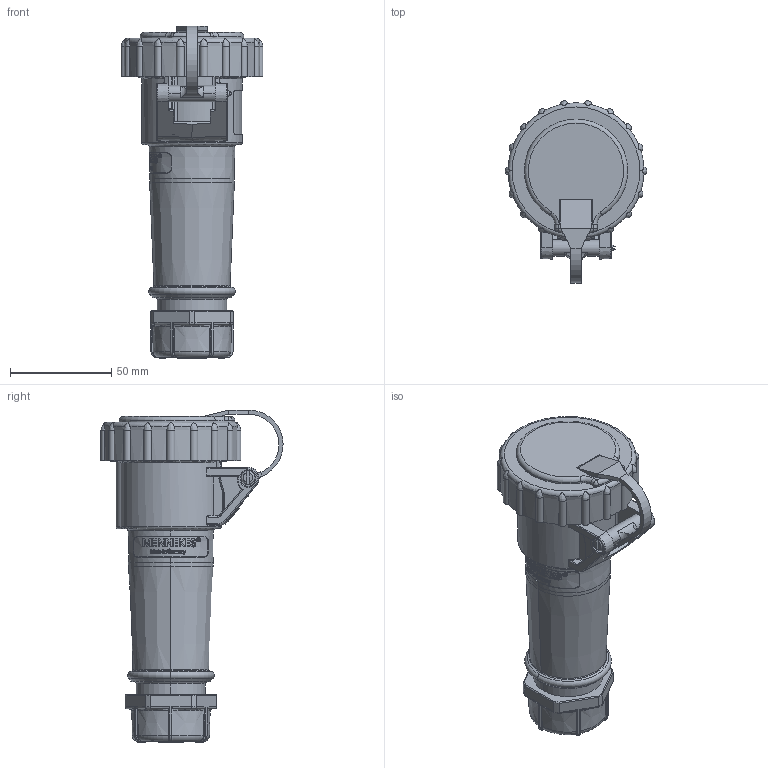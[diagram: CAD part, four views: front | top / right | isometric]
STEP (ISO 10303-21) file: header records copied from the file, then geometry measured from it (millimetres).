
FILE_DESCRIPTION((''),'2;1');
FILE_NAME('24675_SW0001','2018-02-22T',('gisse'),('MENNEKES'),'PRO/ENGINEER BY PARAMETRIC TECHNOLOGY CORPORATION, 2015440','PRO/ENGINEER BY PARAMETRIC TECHNOLOGY CORPORATION, 2015440','');
FILE_SCHEMA(('AUTOMOTIVE_DESIGN { 1 0 10303 214 1 1 1 1 }'));
Products named in the file (1): 24675_SW0001
Bounding box: 70 x 89.86 x 163.7 mm (x, y, z)
Volume: 273874.1 mm3; surface area: 37630.5 mm2
Topology: 1 solids, 1 shells, 1532 faces, 4221 edges, 2736 vertices
Faces by surface type: plane 817, extrusion 242, cylinder 208, torus 106, bspline 79, cone 73, sphere 7
Entity records: 82237 total; most frequent: CARTESIAN_POINT 18137, ORIENTED_EDGE 8442, DIRECTION 6473, PRESENTATION_STYLE_ASSIGNMENT 5729, STYLED_ITEM 4278, CURVE_STYLE 4221, EDGE_CURVE 4221, VERTEX_POINT 2736
